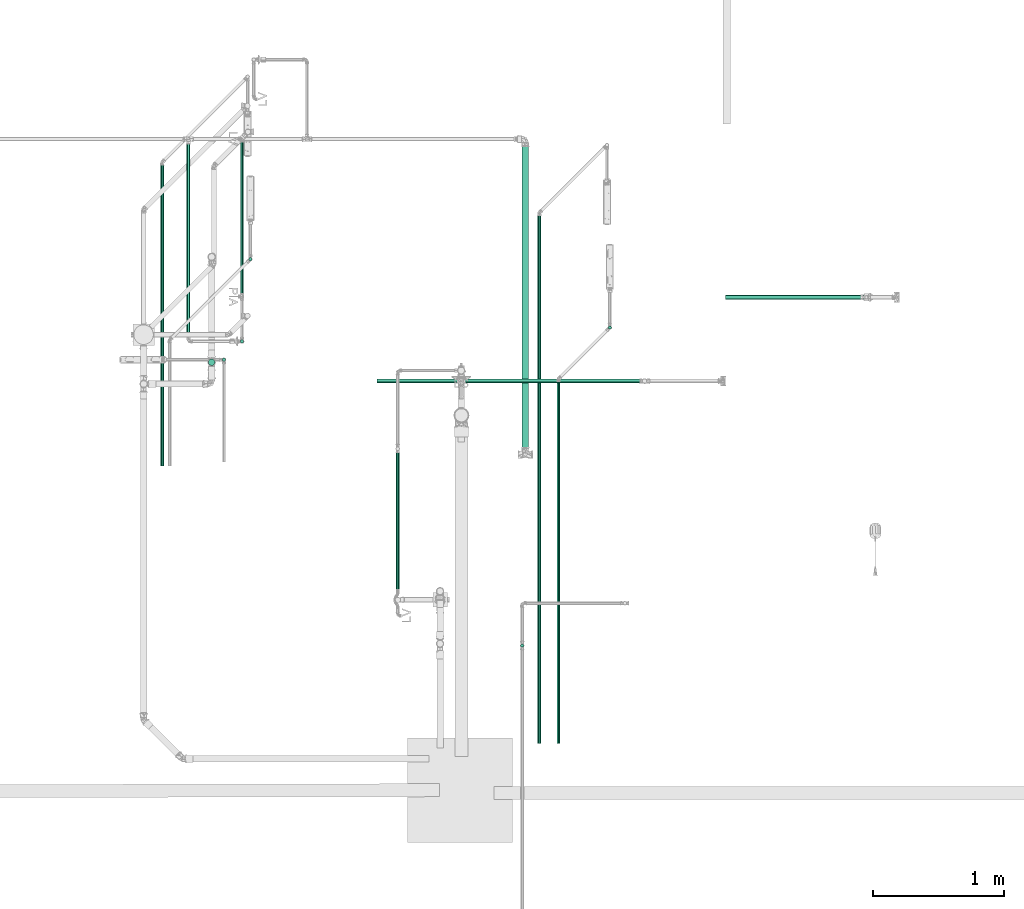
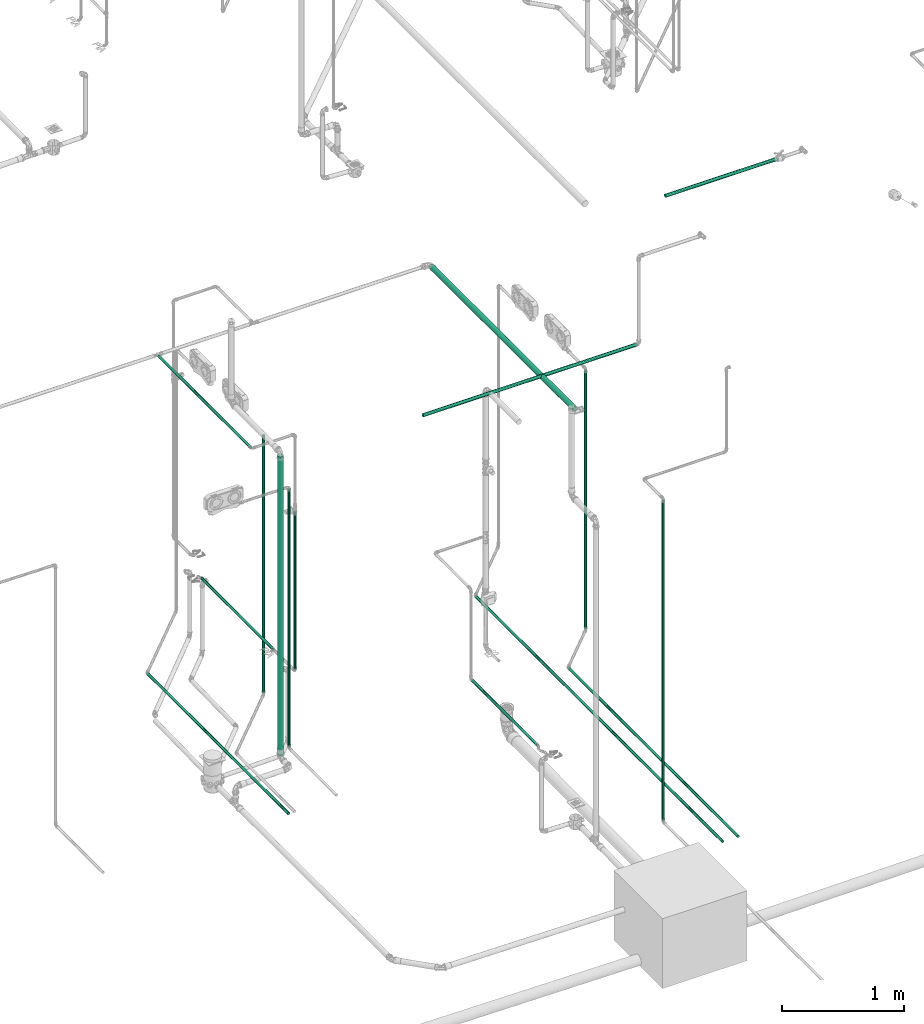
# One storey, part 4 of 589: 15 flow segments.
"""IFC2X3 building model written with IfcOpenShell, lengths in millimetres."""

from ifc_helpers import new_model, entity, si_unit, converted_unit, derived_unit, direction, frame, frame_2d, origin, origin_2d_with_axis, place, context, subcontext, project, spatial, circle, extrude, type_object, element, save


model = new_model("IFC2X3")

# Units and contexts
model_context = context("Model", 3, precision=0.01, world=origin(), true_north=direction((6.123031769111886e-17, 1.0)))
body_context = subcontext(model_context, "Body", "Model", "MODEL_VIEW")
ifc_project = project(units=[si_unit("LENGTHUNIT", "METRE", prefix="MILLI"), si_unit("AREAUNIT", "SQUARE_METRE"), si_unit("VOLUMEUNIT", "CUBIC_METRE"), converted_unit("PLANEANGLEUNIT", "DEGREE", entity("IfcRatioMeasure", 0.017453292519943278), si_unit("PLANEANGLEUNIT", "RADIAN"), dimensions=[0, 0, 0, 0, 0, 0, 0]), si_unit("MASSUNIT", "GRAM", prefix="KILO"), derived_unit("MASSDENSITYUNIT", [(si_unit("MASSUNIT", "GRAM", prefix="KILO"), 1), (si_unit("LENGTHUNIT", "METRE"), -3)]), derived_unit("IONCONCENTRATIONUNIT", [(si_unit("MASSUNIT", "GRAM", prefix="KILO"), 1), (si_unit("LENGTHUNIT", "METRE"), -3)]), derived_unit("MOMENTOFINERTIAUNIT", [(si_unit("LENGTHUNIT", "METRE"), 4)]), si_unit("TIMEUNIT", "SECOND"), si_unit("FREQUENCYUNIT", "HERTZ"), si_unit("THERMODYNAMICTEMPERATUREUNIT", "DEGREE_CELSIUS"), derived_unit("THERMALTRANSMITTANCEUNIT", [(si_unit("MASSUNIT", "GRAM", prefix="KILO"), 1), (si_unit("THERMODYNAMICTEMPERATUREUNIT", "KELVIN"), -1), (si_unit("TIMEUNIT", "SECOND"), -3)]), derived_unit("THERMALCONDUCTANCEUNIT", [(si_unit("MASSUNIT", "GRAM", prefix="KILO"), 1), (si_unit("THERMODYNAMICTEMPERATUREUNIT", "KELVIN"), -1), (si_unit("TIMEUNIT", "SECOND"), -3), (si_unit("LENGTHUNIT", "METRE"), 1)]), derived_unit("VOLUMETRICFLOWRATEUNIT", [(si_unit("LENGTHUNIT", "METRE"), 3), (si_unit("TIMEUNIT", "SECOND"), -1)]), derived_unit("MASSFLOWRATEUNIT", [(si_unit("MASSUNIT", "GRAM", prefix="KILO"), 1), (si_unit("TIMEUNIT", "SECOND"), -1)]), derived_unit("ROTATIONALFREQUENCYUNIT", [(si_unit("TIMEUNIT", "SECOND"), -1)]), si_unit("ELECTRICCURRENTUNIT", "AMPERE"), si_unit("ELECTRICVOLTAGEUNIT", "VOLT"), si_unit("POWERUNIT", "WATT"), si_unit("FORCEUNIT", "NEWTON", prefix="KILO"), si_unit("ILLUMINANCEUNIT", "LUX"), si_unit("LUMINOUSFLUXUNIT", "LUMEN"), si_unit("LUMINOUSINTENSITYUNIT", "CANDELA"), derived_unit("USERDEFINED", [(si_unit("MASSUNIT", "GRAM", prefix="KILO"), -1), (si_unit("LENGTHUNIT", "METRE"), -2), (si_unit("TIMEUNIT", "SECOND"), 3), (si_unit("LUMINOUSFLUXUNIT", "LUMEN"), 1)]), derived_unit("USERDEFINED", [(si_unit("MASSUNIT", "GRAM", prefix="KILO"), 1), (si_unit("TIMEUNIT", "SECOND"), -3), (si_unit("LENGTHUNIT", "METRE"), 3), (si_unit("ELECTRICCURRENTUNIT", "AMPERE"), -2)]), derived_unit("SOUNDPOWERUNIT", [(si_unit("MASSUNIT", "GRAM", prefix="KILO"), 1), (si_unit("TIMEUNIT", "SECOND"), -3), (si_unit("LENGTHUNIT", "METRE"), 2)]), derived_unit("SOUNDPRESSUREUNIT", [(si_unit("MASSUNIT", "GRAM", prefix="KILO"), 1), (si_unit("LENGTHUNIT", "METRE"), -1), (si_unit("TIMEUNIT", "SECOND"), -2)]), derived_unit("LINEARVELOCITYUNIT", [(si_unit("LENGTHUNIT", "METRE"), 1), (si_unit("TIMEUNIT", "SECOND"), -1)]), si_unit("PRESSUREUNIT", "PASCAL"), derived_unit("USERDEFINED", [(si_unit("MASSUNIT", "GRAM", prefix="KILO"), 1), (si_unit("LENGTHUNIT", "METRE"), -2), (si_unit("TIMEUNIT", "SECOND"), -2)]), derived_unit("LINEARFORCEUNIT", [(si_unit("MASSUNIT", "GRAM", prefix="KILO"), 1), (si_unit("TIMEUNIT", "SECOND"), -2)]), derived_unit("PLANARFORCEUNIT", [(si_unit("MASSUNIT", "GRAM", prefix="KILO"), 1), (si_unit("LENGTHUNIT", "METRE"), -1), (si_unit("TIMEUNIT", "SECOND"), -2)]), derived_unit("SPECIFICHEATCAPACITYUNIT", [(si_unit("THERMODYNAMICTEMPERATUREUNIT", "KELVIN"), -1), (si_unit("LENGTHUNIT", "METRE"), 2), (si_unit("TIMEUNIT", "SECOND"), -2)]), derived_unit("HEATINGVALUEUNIT", [(si_unit("LENGTHUNIT", "METRE"), 2), (si_unit("TIMEUNIT", "SECOND"), -2)]), derived_unit("VAPORPERMEABILITYUNIT", [(si_unit("LENGTHUNIT", "METRE"), -1), (si_unit("TIMEUNIT", "SECOND"), 1)]), derived_unit("DYNAMICVISCOSITYUNIT", [(si_unit("MASSUNIT", "GRAM", prefix="KILO"), 1), (si_unit("TIMEUNIT", "SECOND"), -1), (si_unit("LENGTHUNIT", "METRE"), -1)]), derived_unit("THERMALEXPANSIONCOEFFICIENTUNIT", [(si_unit("THERMODYNAMICTEMPERATUREUNIT", "KELVIN"), -1)]), derived_unit("MODULUSOFELASTICITYUNIT", [(si_unit("MASSUNIT", "GRAM", prefix="KILO"), 1), (si_unit("LENGTHUNIT", "METRE"), -1), (si_unit("TIMEUNIT", "SECOND"), -2)]), derived_unit("ISOTHERMALMOISTURECAPACITYUNIT", [(si_unit("LENGTHUNIT", "METRE"), 3), (si_unit("MASSUNIT", "GRAM", prefix="KILO"), -1)]), derived_unit("MOISTUREDIFFUSIVITYUNIT", [(si_unit("TIMEUNIT", "SECOND"), -1), (si_unit("LENGTHUNIT", "METRE"), 2)])], contexts=[model_context])

# Site, building, storey
site_placement = place(None, origin())
site = spatial("IfcSite", under=ifc_project, at=site_placement, Name="Default", CompositionType="ELEMENT")
building_placement = place(site_placement, origin())
building = spatial("IfcBuilding", under=site, at=building_placement, CompositionType="ELEMENT")
storey_placement = place(building_placement, frame((0.0, 0.0, 100.0)))
storey = spatial("IfcBuildingStorey", under=building, at=storey_placement, Name="TÉRREO", CompositionType="ELEMENT", Elevation=100.0)

# Flow segments
pipe_segment_type_1 = type_object("IfcPipeSegmentType", Name="Tipos de tubos:PVC Esgoto Série Normal", PredefinedType="NOTDEFINED")
flow_segment_1_placement = place(storey_placement, origin())
element("IfcFlowSegment", 1, at=flow_segment_1_placement, inside=storey, type_object=pipe_segment_type_1, Name="Tipos de tubos:PVC Esgoto Série Normal", ObjectType="Tipos de tubos:PVC Esgoto Série Normal", context=body_context, shape_type="SweptSolid", body=[
    extrude(circle(Radius=25.0, at=frame_2d((6.767919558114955e-14, 0.0), x_axis=(1.0, 0.0))), frame((109.67377091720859, -7907.516353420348, -56.05870003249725), z_axis=(0.0, 0.0, 1.0), x_axis=(-1.0, 0.0, 0.0)), (0.0, 0.0, 1.0), 2993.1174000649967),
])
pipe_segment_type_2 = type_object("IfcPipeSegmentType", Name="Tipos de tubos:PVC Marrom Soldável", PredefinedType="NOTDEFINED")
flow_segment_2_placement = place(storey_placement, origin())
element("IfcFlowSegment", 2, at=flow_segment_2_placement, inside=storey, type_object=pipe_segment_type_2, Name="Tipos de tubos:PVC Marrom Soldável", ObjectType="Tipos de tubos:PVC Marrom Soldável", context=body_context, shape_type="SweptSolid", body=[
    extrude(circle(Radius=12.5, at=frame_2d((6.767919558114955e-14, -1.353583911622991e-13), x_axis=(1.0, 0.0))), frame((341.44239219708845, -7392.663258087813, 600.0), z_axis=(0.0, 1.0, 0.0), x_axis=(1.0, 0.0, 0.0)), (0.0, 0.0, 1.0), 1178.8319742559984),
])
flow_segment_3_placement = place(storey_placement, origin())
element("IfcFlowSegment", 3, at=flow_segment_3_placement, inside=storey, type_object=pipe_segment_type_2, Name="Tipos de tubos:PVC Marrom Soldável", ObjectType="Tipos de tubos:PVC Marrom Soldável", context=body_context, shape_type="SweptSolid", body=[
    extrude(circle(Radius=12.5, at=frame_2d((6.767919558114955e-14, 0.0), x_axis=(1.0, 0.0))), frame((341.44239219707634, -7747.531283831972, 615.4000000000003), z_axis=(0.0, 0.0, 1.0), x_axis=(-1.0, 0.0, 0.0)), (0.0, 0.0, 1.0), 1584.6012082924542),
])
flow_segment_4_placement = place(storey_placement, origin())
element("IfcFlowSegment", 4, at=flow_segment_4_placement, inside=storey, type_object=pipe_segment_type_2, Name="Tipos de tubos:PVC Marrom Soldável", ObjectType="Tipos de tubos:PVC Marrom Soldável", context=body_context, shape_type="SweptSolid", body=[
    extrude(circle(Radius=12.5, at=frame_2d((1.9457768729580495e-13, 0.0), x_axis=(1.0, 0.0))), frame((-68.4411328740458, -7732.131283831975, 2970.0), z_axis=(0.0, 1.0, 0.0), x_axis=(-1.0, 0.0, 0.0)), (0.0, 0.0, 1.0), 1507.205501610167),
])
flow_segment_5_placement = place(storey_placement, origin())
element("IfcFlowSegment", 5, at=flow_segment_5_placement, inside=storey, type_object=pipe_segment_type_2, Name="Tipos de tubos:PVC Marrom Soldável", ObjectType="Tipos de tubos:PVC Marrom Soldável", context=body_context, shape_type="SweptSolid", body=[
    extrude(circle(Radius=12.5, at=origin_2d_with_axis()), frame((1531.8423921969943, -9658.174925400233, 599.9999690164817), z_axis=(0.0, 1.0, 0.0), x_axis=(-1.0, 0.0, 0.0)), (0.0, 0.0, 1.0), 1074.7462613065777),
])
flow_segment_6_placement = place(storey_placement, origin())
element("IfcFlowSegment", 6, at=flow_segment_6_placement, inside=storey, type_object=pipe_segment_type_2, Name="Tipos de tubos:PVC Marrom Soldável", ObjectType="Tipos de tubos:PVC Marrom Soldável", context=body_context, shape_type="SweptSolid", body=[
    extrude(circle(Radius=12.5, at=origin_2d_with_axis()), frame((2482.5321732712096, -10072.531283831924, -234.60000000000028)), (0.0, 0.0, 1.0), 3204.099999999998),
])
flow_segment_7_placement = place(storey_placement, origin())
element("IfcFlowSegment", 7, at=flow_segment_7_placement, inside=storey, type_object=pipe_segment_type_2, Name="Tipos de tubos:PVC Marrom Soldável", ObjectType="Tipos de tubos:PVC Marrom Soldável", context=body_context, shape_type="SweptSolid", body=[
    extrude(circle(Radius=16.0, at=frame_2d((-7.580069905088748e-12, 0.0), x_axis=(1.0, 0.0))), frame((1374.6158682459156, -8050.83648067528, 2980.0), z_axis=(1.0, 0.0, 0.0), x_axis=(0.0, 1.0, 0.0)), (0.0, 0.0, 1.0), 2023.7470916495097),
])
flow_segment_8_placement = place(storey_placement, origin())
element("IfcFlowSegment", 8, at=flow_segment_8_placement, inside=storey, type_object=pipe_segment_type_2, Name="Tipos de tubos:PVC Marrom Soldável", ObjectType="Tipos de tubos:PVC Marrom Soldável", context=body_context, shape_type="SweptSolid", body=[
    extrude(circle(Radius=16.0, at=origin_2d_with_axis()), frame((4037.0158682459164, -7410.836480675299, 3855.0), z_axis=(1.0, 0.0, 0.0), x_axis=(0.0, -1.0, 0.0)), (0.0, 0.0, 1.0), 1052.919679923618),
])
flow_segment_9_placement = place(storey_placement, origin())
element("IfcFlowSegment", 9, at=flow_segment_9_placement, inside=storey, type_object=pipe_segment_type_2, Name="Tipos de tubos:PVC Marrom Soldável", ObjectType="Tipos de tubos:PVC Marrom Soldável", context=body_context, shape_type="SweptSolid", body=[
    extrude(circle(Radius=12.5, at=frame_2d((0.0, -1.859011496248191e-19), x_axis=(1.0, 0.0))), frame((3151.953770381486, -7642.223531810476, -20.756995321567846)), (0.0, 0.0, 1.0), 2580.685513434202),
])
flow_segment_10_placement = place(storey_placement, origin())
element("IfcFlowSegment", 10, at=flow_segment_10_placement, inside=storey, type_object=pipe_segment_type_2, Name="Tipos de tubos:PVC Marrom Soldável", ObjectType="Tipos de tubos:PVC Marrom Soldável", context=body_context, shape_type="SweptSolid", body=[
    extrude(circle(Radius=12.5, at=frame_2d((0.0, -8.462609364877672e-15), x_axis=(1.0, 0.0))), frame((2759.784684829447, -10821.462370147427, -37.359807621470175), z_axis=(0.0, 1.0, 1.2512695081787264e-06), x_axis=(-1.0, 0.0, 0.0)), (0.0, 0.0, 1.0), 2780.0050547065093),
])
flow_segment_11_placement = place(storey_placement, origin())
element("IfcFlowSegment", 11, at=flow_segment_11_placement, inside=storey, type_object=pipe_segment_type_2, Name="Tipos de tubos:PVC Marrom Soldável", ObjectType="Tipos de tubos:PVC Marrom Soldável", context=body_context, shape_type="SweptSolid", body=[
    extrude(circle(Radius=12.5, at=frame_2d((4.0233928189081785e-09, -8.459899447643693e-15), x_axis=(1.0, 0.0))), frame((2613.124532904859, -10821.462370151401, -37.356971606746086), z_axis=(0.0, 1.0, 0.0), x_axis=(-1.0, 0.0, 0.0)), (0.0, 0.0, 1.0), 4048.557353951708),
])
flow_segment_12_placement = place(storey_placement, origin())
element("IfcFlowSegment", 12, at=flow_segment_12_placement, inside=storey, type_object=pipe_segment_type_2, Name="Tipos de tubos:PVC Marrom Soldável", ObjectType="Tipos de tubos:PVC Marrom Soldável", context=body_context, shape_type="SweptSolid", body=[
    extrude(circle(Radius=12.5, at=frame_2d((0.0, -1.859011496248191e-19), x_axis=(1.0, 0.0))), frame((405.669184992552, -7119.822407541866, -20.756995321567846)), (0.0, 0.0, 1.0), 2580.685513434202),
])
flow_segment_13_placement = place(storey_placement, origin())
element("IfcFlowSegment", 13, at=flow_segment_13_placement, inside=storey, type_object=pipe_segment_type_2, Name="Tipos de tubos:PVC Marrom Soldável", ObjectType="Tipos de tubos:PVC Marrom Soldável", context=body_context, shape_type="SweptSolid", body=[
    extrude(circle(Radius=12.5, at=frame_2d((4.023934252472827e-09, -8.459899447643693e-15), x_axis=(1.0, 0.0))), frame((-267.98205759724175, -8698.261221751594, -37.356999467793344), z_axis=(0.0, 1.0, 0.0), x_axis=(-1.0, 0.0, 0.0)), (0.0, 0.0, 1.0), 2312.9353247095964),
])
flow_segment_14_placement = place(storey_placement, origin())
element("IfcFlowSegment", 14, at=flow_segment_14_placement, inside=storey, type_object=pipe_segment_type_2, Name="Tipos de tubos:PVC Marrom Soldável", ObjectType="Tipos de tubos:PVC Marrom Soldável", context=body_context, shape_type="SweptSolid", body=[
    extrude(circle(Radius=12.5, at=frame_2d((1.3102370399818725e-18, 0.0), x_axis=(1.0, 0.0))), frame((203.72899706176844, -7887.861245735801, -21.958247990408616)), (0.0, 0.0, 1.0), 2580.1764085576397),
])
flow_segment_15_placement = place(storey_placement, origin())
element("IfcFlowSegment", 15, at=flow_segment_15_placement, inside=storey, type_object=pipe_segment_type_2, Name="Tipos de tubos:PVC Marrom Soldável", ObjectType="Tipos de tubos:PVC Marrom Soldável", context=body_context, shape_type="SweptSolid", body=[
    extrude(circle(Radius=25.0, at=origin_2d_with_axis()), frame((2506.286102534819, -8584.031283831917, 2970.0), z_axis=(0.0, 1.0, 0.0), x_axis=(1.0, 0.0, 0.0)), (0.0, 0.0, 1.0), 2352.305501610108),
])

save(model, "model.ifc")
